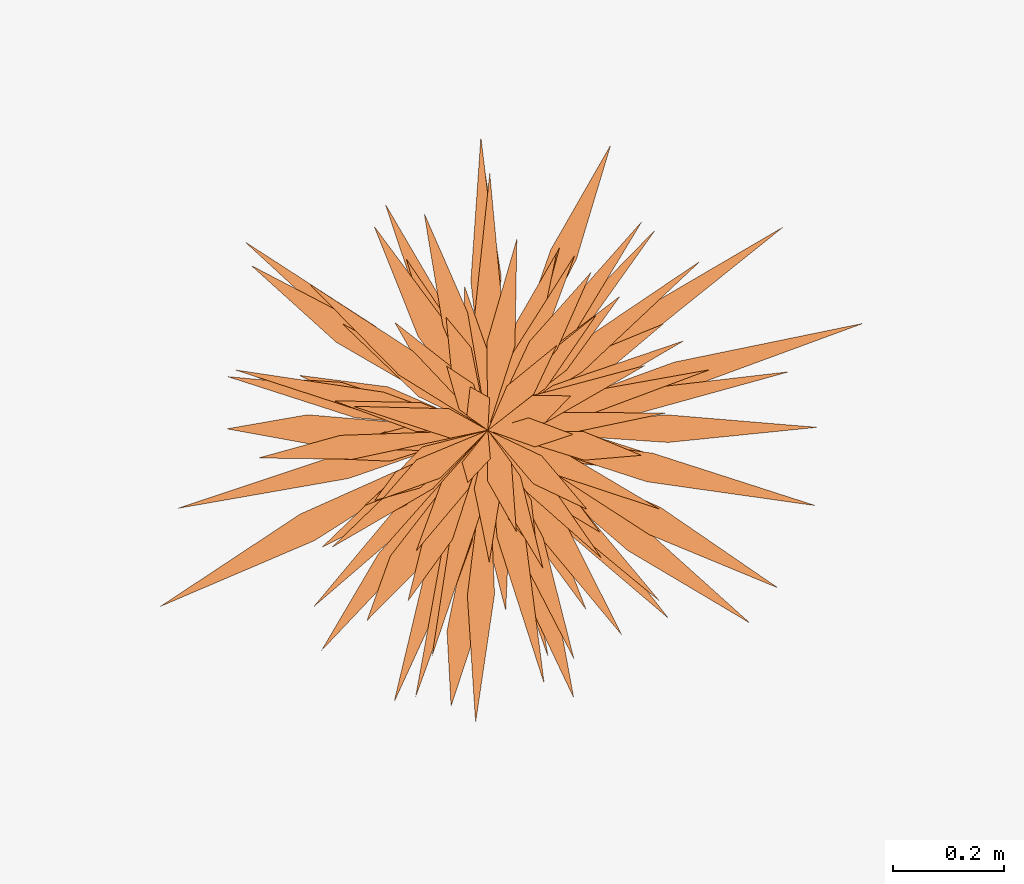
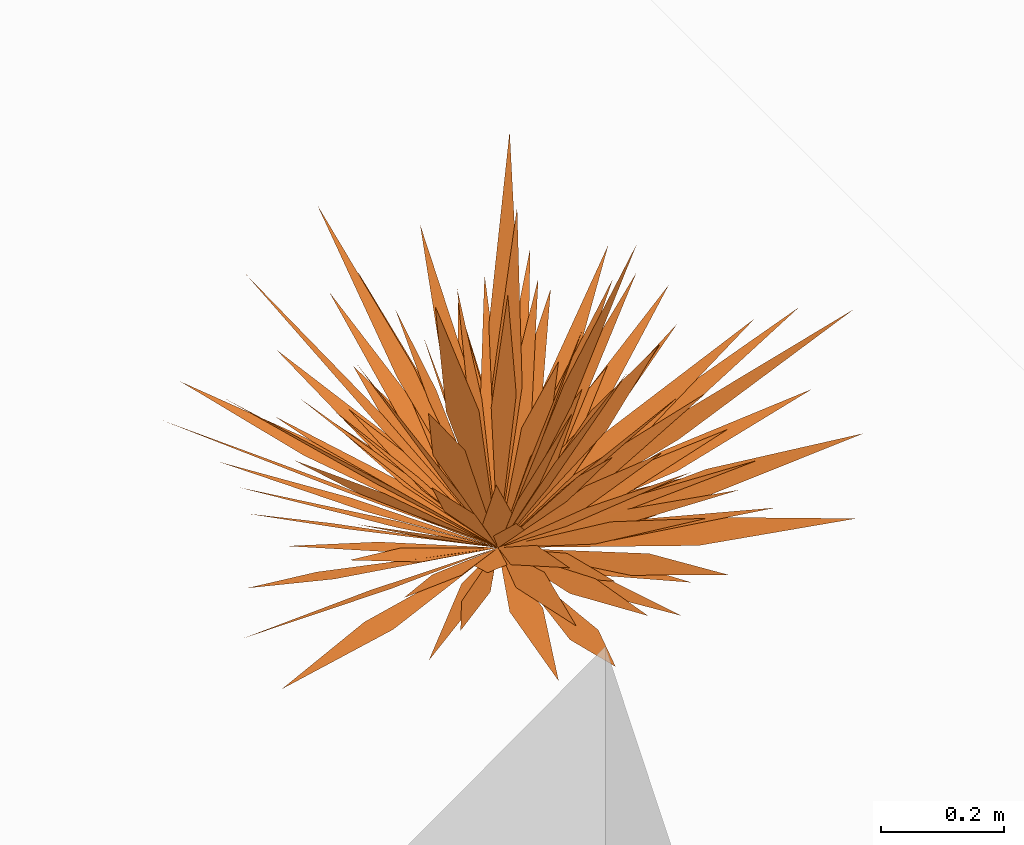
# One storey, part 5 of 7: 1 proxy.
"""IFC2X3 building model written with IfcOpenShell, lengths in metres."""

from ifc_helpers import new_model, entity, si_unit, converted_unit, derived_unit, money_unit, direction, frame, origin_with_axes, place, context, subcontext, project, spatial, open_shell, surface_model, type_object, element, save


model = new_model("IFC2X3")

# Units and contexts
model_context = context("Model", 3, precision=1e-05, world=origin_with_axes(), true_north=direction((0.0, 1.0)))
body_context = subcontext(model_context, "Body", "Model", "MODEL_VIEW")
ifc_project = project(units=[si_unit("LENGTHUNIT", "METRE"), si_unit("AREAUNIT", "SQUARE_METRE"), si_unit("VOLUMEUNIT", "CUBIC_METRE"), converted_unit("PLANEANGLEUNIT", "DEGREE", entity("IfcPlaneAngleMeasure", 0.0174532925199), si_unit("PLANEANGLEUNIT", "RADIAN"), dimensions=[0, 0, 0, 0, 0, 0, 0]), si_unit("SOLIDANGLEUNIT", "STERADIAN"), money_unit("CHF"), converted_unit("TIMEUNIT", "Year", entity("IfcTimeMeasure", 31556926.0), si_unit("TIMEUNIT", "SECOND"), dimensions=[0, 0, 1, 0, 0, 0, 0]), si_unit("MASSUNIT", "GRAM", prefix="KILO"), si_unit("THERMODYNAMICTEMPERATUREUNIT", "DEGREE_CELSIUS"), si_unit("LUMINOUSINTENSITYUNIT", "LUMEN"), si_unit("ENERGYUNIT", "JOULE", prefix="MEGA"), derived_unit("THERMALCONDUCTANCEUNIT", [(si_unit("POWERUNIT", "WATT"), 1), (si_unit("LENGTHUNIT", "METRE"), -1), (si_unit("THERMODYNAMICTEMPERATUREUNIT", "KELVIN"), -1)]), derived_unit("SPECIFICHEATCAPACITYUNIT", [(si_unit("ENERGYUNIT", "JOULE"), 1), (si_unit("MASSUNIT", "GRAM", prefix="KILO"), -1), (si_unit("THERMODYNAMICTEMPERATUREUNIT", "KELVIN"), -1)]), derived_unit("MASSDENSITYUNIT", [(si_unit("MASSUNIT", "GRAM", prefix="KILO"), 1), (si_unit("VOLUMEUNIT", "CUBIC_METRE"), -1)])], contexts=[model_context])

# Site, building, storey
site_placement = place(None, origin_with_axes())
site = spatial("IfcSite", under=ifc_project, at=site_placement, Name="Site", CompositionType="ELEMENT")
building_placement = place(site_placement, origin_with_axes())
building = spatial("IfcBuilding", under=site, at=building_placement, Name="Bâtiment", CompositionType="ELEMENT")
storey_placement = place(building_placement, frame((0.0, 0.0, 9.0), z_axis=(0.0, 0.0, 1.0), x_axis=(1.0, 0.0, 0.0)))
storey = spatial("IfcBuildingStorey", under=building, at=storey_placement, Name="TOITURE", CompositionType="ELEMENT", Elevation=9.0)

# Proxy
building_element_proxy_type = type_object("IfcBuildingElementProxyType", Name="Modèle herbe 24", PredefinedType="NOTDEFINED")
proxy_placement = place(storey_placement, frame((75.1954434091, 5.22679544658, -9.3), z_axis=(0.0, 0.0, 1.0), x_axis=(0.0, -1.0, 0.0)))
element("IfcBuildingElementProxy", 1, at=proxy_placement, inside=storey, type_object=building_element_proxy_type, Name="Symb-0005", context=body_context, shape_type="SurfaceModel", body=[
    surface_model("IfcShellBasedSurfaceModel", [(0.0, 0.0, 0.0), (0.12185989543, 0.0579657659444, 0.0326725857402), (0.407485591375, 0.10850597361, 0.0743544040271), (0.137616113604, 0.0111279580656, 0.0146743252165)], [open_shell([[[0, 1, 2, 3]]])]),
    surface_model("IfcShellBasedSurfaceModel", [(0.0, 0.0, 0.0), (0.134543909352, 0.104066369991, 0.033559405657), (0.322448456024, 0.176671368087, 0.0648312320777), (0.16130291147, 0.0580298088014, 0.0259233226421)], [open_shell([[[0, 1, 2, 3]]])]),
    surface_model("IfcShellBasedSurfaceModel", [(0.0, 0.0, 0.0), (0.173690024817, 0.278591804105, 0.0685603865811), (0.347062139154, 0.471724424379, 0.103264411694), (0.216474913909, 0.251717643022, 0.0475287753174)], [open_shell([[[0, 1, 2, 3]]])]),
    surface_model("IfcShellBasedSurfaceModel", [(0.0, 0.0, 0.0), (0.028347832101, 0.124526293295, 0.0265501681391), (0.10555995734, 0.237718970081, 0.0458630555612), (0.0739858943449, 0.105927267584, 0.0179111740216)], [open_shell([[[0, 1, 2, 3]]])]),
    surface_model("IfcShellBasedSurfaceModel", [(0.0, 0.0, 0.0), (0.0124808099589, 0.1790529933, 0.0423439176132), (0.0883215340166, 0.423543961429, 0.0762887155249), (0.0608903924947, 0.172796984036, 0.0210312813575)], [open_shell([[[0, 1, 2, 3]]])]),
    surface_model("IfcShellBasedSurfaceModel", [(0.0, 0.0, 0.0), (-0.0276763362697, 0.322234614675, 0.0617582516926), (-0.00522684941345, 0.592553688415, 0.104487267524), (0.0219729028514, 0.324348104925, 0.0522561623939)], [open_shell([[[0, 1, 2, 3]]])]),
    surface_model("IfcShellBasedSurfaceModel", [(0.0, 0.0, 0.0), (-0.122469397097, 0.335260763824, 0.0637342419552), (-0.192445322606, 0.676019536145, 0.123936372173), (-0.07255363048, 0.349813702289, 0.061862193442)], [open_shell([[[0, 1, 2, 3]]])]),
    surface_model("IfcShellBasedSurfaceModel", [(0.0, 0.0, 0.0), (-0.188058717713, 0.227848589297, 0.0530202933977), (-0.365858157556, 0.531883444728, 0.113830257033), (-0.145739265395, 0.257425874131, 0.0508350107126)], [open_shell([[[0, 1, 2, 3]]])]),
    surface_model("IfcShellBasedSurfaceModel", [(0.0, 0.0, 0.0), (-0.118832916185, 0.0501660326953, 0.0242755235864), (-0.253141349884, 0.176784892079, 0.0544429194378), (-0.0885873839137, 0.0946889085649, 0.0203342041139)], [open_shell([[[0, 1, 2, 3]]])]),
    surface_model("IfcShellBasedSurfaceModel", [(0.0, 0.0, 0.0), (-0.324659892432, 0.113115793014, 0.0698192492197), (-0.513330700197, 0.221121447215, 0.0985544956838), (-0.308170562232, 0.159481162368, 0.0516780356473)], [open_shell([[[0, 1, 2, 3]]])]),
    surface_model("IfcShellBasedSurfaceModel", [(0.0, 0.0, 0.0), (-0.275328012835, -0.029674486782, 0.0501443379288), (-0.462596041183, -0.00465935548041, 0.0815723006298), (-0.276398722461, 0.0241173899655, 0.0471449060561)], [open_shell([[[0, 1, 2, 3]]])]),
    surface_model("IfcShellBasedSurfaceModel", [(0.0, 0.0, 0.0), (-0.178272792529, -0.107972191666, 0.0427827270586), (-0.406994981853, -0.184595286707, 0.0788006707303), (-0.200632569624, -0.0638828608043, 0.0305793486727)], [open_shell([[[0, 1, 2, 3]]])]),
    surface_model("IfcShellBasedSurfaceModel", [(0.0, 0.0, 0.0), (-0.0819884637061, -0.139749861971, 0.0387453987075), (-0.267011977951, -0.334213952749, 0.075428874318), (-0.120433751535, -0.113618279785, 0.0184373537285)], [open_shell([[[0, 1, 2, 3]]])]),
    surface_model("IfcShellBasedSurfaceModel", [(0.0, 0.0, 0.0), (-0.0295900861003, -0.190817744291, 0.0409214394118), (-0.0988190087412, -0.339897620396, 0.0624146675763), (-0.0780116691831, -0.179288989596, 0.0270404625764)], [open_shell([[[0, 1, 2, 3]]])]),
    surface_model("IfcShellBasedSurfaceModel", [(0.0, 0.0, 0.0), (0.0243923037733, -0.321731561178, 0.0653195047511), (-0.00248455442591, -0.469878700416, 0.0828534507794), (-0.0278088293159, -0.324401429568, 0.0486127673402)], [open_shell([[[0, 1, 2, 3]]])]),
    surface_model("IfcShellBasedSurfaceModel", [(0.0, 0.0, 0.0), (0.0868323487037, -0.250547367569, 0.0592128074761), (0.140880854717, -0.559382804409, 0.101714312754), (0.0432548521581, -0.265978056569, 0.0347086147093)], [open_shell([[[0, 1, 2, 3]]])]),
    surface_model("IfcShellBasedSurfaceModel", [(0.0, 0.0, 0.0), (0.198595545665, -0.311796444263, 0.067317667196), (0.316981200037, -0.589043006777, 0.117947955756), (0.151188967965, -0.338204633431, 0.0628363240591)], [open_shell([[[0, 1, 2, 3]]])]),
    surface_model("IfcShellBasedSurfaceModel", [(0.0, 0.0, 0.0), (0.113426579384, -0.075974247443, 0.0306733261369), (0.317806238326, -0.313565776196, 0.0787225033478), (0.0792019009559, -0.11408400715, 0.017041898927)], [open_shell([[[0, 1, 2, 3]]])]),
    surface_model("IfcShellBasedSurfaceModel", [(0.0, 0.0, 0.0), (0.237392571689, -0.0527996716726, 0.0427023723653), (0.489176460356, -0.168694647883, 0.0912398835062), (0.219506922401, -0.104764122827, 0.0425172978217)], [open_shell([[[0, 1, 2, 3]]])]),
    surface_model("IfcShellBasedSurfaceModel", [(0.0, 0.0, 0.0), (0.366775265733, -0.0235358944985, 0.0674361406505), (0.496804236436, -0.0661959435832, 0.0883741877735), (0.36108494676, -0.0734467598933, 0.0620395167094)], [open_shell([[[0, 1, 2, 3]]])]),
    surface_model("IfcShellBasedSurfaceModel", [(0.0, 0.0, 0.0), (0.156100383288, 0.0396108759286, 0.0697354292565), (0.324321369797, 0.0321535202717, 0.118622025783), (0.168370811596, -0.00744250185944, 0.0489413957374)], [open_shell([[[0, 1, 2, 3]]])]),
    surface_model("IfcShellBasedSurfaceModel", [(0.0, 0.0, 0.0), (0.285963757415, 0.118505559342, 0.120406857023), (0.481461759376, 0.154546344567, 0.184044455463), (0.306482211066, 0.0716660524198, 0.106062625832)], [open_shell([[[0, 1, 2, 3]]])]),
    surface_model("IfcShellBasedSurfaceModel", [(0.0, 0.0, 0.0), (0.12831213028, 0.160351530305, 0.0753783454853), (0.338693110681, 0.325331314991, 0.170931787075), (0.165970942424, 0.122321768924, 0.0731405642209)], [open_shell([[[0, 1, 2, 3]]])]),
    surface_model("IfcShellBasedSurfaceModel", [(0.0, 0.0, 0.0), (0.139034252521, 0.311151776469, 0.131670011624), (0.28379154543, 0.522149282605, 0.216302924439), (0.187929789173, 0.29043076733, 0.117538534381)], [open_shell([[[0, 1, 2, 3]]])]),
    surface_model("IfcShellBasedSurfaceModel", [(0.0, 0.0, 0.0), (0.00682968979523, 0.180017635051, 0.0704288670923), (0.0737796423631, 0.38790636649, 0.143717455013), (0.0604072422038, 0.173489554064, 0.0605438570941)], [open_shell([[[0, 1, 2, 3]]])]),
    surface_model("IfcShellBasedSurfaceModel", [(0.0, 0.0, 0.0), (-0.067097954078, 0.214508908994, 0.0929168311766), (-0.105299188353, 0.542573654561, 0.201165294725), (-0.0194347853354, 0.23136712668, 0.0723967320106)], [open_shell([[[0, 1, 2, 3]]])]),
    surface_model("IfcShellBasedSurfaceModel", [(0.0, 0.0, 0.0), (-0.12460753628, 0.153653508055, 0.0726259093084), (-0.191053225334, 0.315412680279, 0.134218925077), (-0.0788965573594, 0.182314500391, 0.0703400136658)], [open_shell([[[0, 1, 2, 3]]])]),
    surface_model("IfcShellBasedSurfaceModel", [(0.0, 0.0, 0.0), (-0.116500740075, 0.0626906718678, 0.0476662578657), (-0.360899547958, 0.301727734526, 0.171216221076), (-0.0825872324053, 0.103755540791, 0.0467840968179)], [open_shell([[[0, 1, 2, 3]]])]),
    surface_model("IfcShellBasedSurfaceModel", [(0.0, 0.0, 0.0), (-0.140470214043, 0.0304294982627, 0.063668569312), (-0.328736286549, 0.129118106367, 0.128548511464), (-0.130829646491, 0.076129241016, 0.04242009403)], [open_shell([[[0, 1, 2, 3]]])]),
    surface_model("IfcShellBasedSurfaceModel", [(0.0, 0.0, 0.0), (-0.267895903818, -0.0305474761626, 0.105507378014), (-0.527599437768, -0.0124888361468, 0.192084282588), (-0.274031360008, 0.0177194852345, 0.0917932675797)], [open_shell([[[0, 1, 2, 3]]])]),
    surface_model("IfcShellBasedSurfaceModel", [(0.0, 0.0, 0.0), (-0.140036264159, -0.0954135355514, 0.0707309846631), (-0.3080259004, -0.146732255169, 0.124182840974), (-0.168002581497, -0.0513248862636, 0.0534570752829)], [open_shell([[[0, 1, 2, 3]]])]),
    surface_model("IfcShellBasedSurfaceModel", [(0.0, 0.0, 0.0), (-0.143719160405, -0.224274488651, 0.110532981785), (-0.339425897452, -0.437727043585, 0.2016062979), (-0.186928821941, -0.202132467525, 0.0858595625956)], [open_shell([[[0, 1, 2, 3]]])]),
    surface_model("IfcShellBasedSurfaceModel", [(0.0, 0.0, 0.0), (-0.0357421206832, -0.266855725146, 0.10935861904), (-0.0958149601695, -0.416480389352, 0.155546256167), (-0.0861628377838, -0.263030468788, 0.0885422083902)], [open_shell([[[0, 1, 2, 3]]])]),
    surface_model("IfcShellBasedSurfaceModel", [(0.0, 0.0, 0.0), (0.0557056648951, -0.176346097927, 0.0672075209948), (0.0501172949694, -0.308386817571, 0.11371619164), (0.00306582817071, -0.185292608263, 0.0661450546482)], [open_shell([[[0, 1, 2, 3]]])]),
    surface_model("IfcShellBasedSurfaceModel", [(0.0, 0.0, 0.0), (0.134102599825, -0.146641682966, 0.078002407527), (0.210680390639, -0.298505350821, 0.132982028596), (0.0955618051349, -0.178761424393, 0.0669623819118)], [open_shell([[[0, 1, 2, 3]]])]),
    surface_model("IfcShellBasedSurfaceModel", [(0.0, 0.0, 0.0), (0.244840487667, -0.155742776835, 0.1155946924), (0.396450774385, -0.299293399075, 0.180798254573), (0.222151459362, -0.196804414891, 0.0973733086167)], [open_shell([[[0, 1, 2, 3]]])]),
    surface_model("IfcShellBasedSurfaceModel", [(0.0, 0.0, 0.0), (0.200372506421, -0.0284888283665, 0.0826302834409), (0.479873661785, -0.130021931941, 0.180957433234), (0.193257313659, -0.0781653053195, 0.0658051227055)], [open_shell([[[0, 1, 2, 3]]])]),
    surface_model("IfcShellBasedSurfaceModel", [(0.0, 0.0, 0.0), (0.295382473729, 0.0120080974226, 0.113697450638), (0.52613927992, -0.0220257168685, 0.191666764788), (0.297496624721, -0.0368277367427, 0.102281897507)], [open_shell([[[0, 1, 2, 3]]])]),
    surface_model("IfcShellBasedSurfaceModel", [(0.0, 0.0, 0.0), (0.193942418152, 0.0996702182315, 0.134184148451), (0.411092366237, 0.154831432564, 0.253620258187), (0.218893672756, 0.0558179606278, 0.120511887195)], [open_shell([[[0, 1, 2, 3]]])]),
    surface_model("IfcShellBasedSurfaceModel", [(0.0, 0.0, 0.0), (0.170631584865, 0.141606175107, 0.130060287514), (0.367641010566, 0.24046081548, 0.253627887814), (0.200194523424, 0.100937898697, 0.125764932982)], [open_shell([[[0, 1, 2, 3]]])]),
    surface_model("IfcShellBasedSurfaceModel", [(0.0, 0.0, 0.0), (0.0847831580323, 0.123022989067, 0.0852718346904), (0.30720849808, 0.308880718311, 0.251518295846), (0.122801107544, 0.08569121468, 0.0846819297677)], [open_shell([[[0, 1, 2, 3]]])]),
    surface_model("IfcShellBasedSurfaceModel", [(0.0, 0.0, 0.0), (0.0414614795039, 0.297018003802, 0.174029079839), (0.13573424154, 0.58983279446, 0.349440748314), (0.0928354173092, 0.286568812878, 0.171711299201)], [open_shell([[[0, 1, 2, 3]]])]),
    surface_model("IfcShellBasedSurfaceModel", [(0.0, 0.0, 0.0), (-0.0585973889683, 0.117735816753, 0.0796757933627), (-0.108899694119, 0.399369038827, 0.23899426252), (-0.0104615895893, 0.135524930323, 0.0718829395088)], [open_shell([[[0, 1, 2, 3]]])]),
    surface_model("IfcShellBasedSurfaceModel", [(0.0, 0.0, 0.0), (-0.136843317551, 0.133808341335, 0.119739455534), (-0.304580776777, 0.382750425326, 0.282410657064), (-0.105105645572, 0.1702360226, 0.104598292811)], [open_shell([[[0, 1, 2, 3]]])]),
    surface_model("IfcShellBasedSurfaceModel", [(0.0, 0.0, 0.0), (-0.181854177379, 0.105705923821, 0.132329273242), (-0.375612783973, 0.277209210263, 0.269524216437), (-0.162705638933, 0.148585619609, 0.114912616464)], [open_shell([[[0, 1, 2, 3]]])]),
    surface_model("IfcShellBasedSurfaceModel", [(0.0, 0.0, 0.0), (-0.180512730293, 0.0436742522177, 0.119459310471), (-0.319028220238, 0.123726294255, 0.197557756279), (-0.17339562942, 0.0935793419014, 0.0996979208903)], [open_shell([[[0, 1, 2, 3]]])]),
    surface_model("IfcShellBasedSurfaceModel", [(0.0, 0.0, 0.0), (-0.200498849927, -0.0244556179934, 0.122114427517), (-0.46181486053, 0.00345658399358, 0.266636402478), (-0.205709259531, 0.0274959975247, 0.112416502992)], [open_shell([[[0, 1, 2, 3]]])]),
    surface_model("IfcShellBasedSurfaceModel", [(0.0, 0.0, 0.0), (-0.168954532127, -0.12558960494, 0.122382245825), (-0.366857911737, -0.204561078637, 0.242507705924), (-0.197066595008, -0.078504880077, 0.119572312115)], [open_shell([[[0, 1, 2, 3]]])]),
    surface_model("IfcShellBasedSurfaceModel", [(0.0, 0.0, 0.0), (-0.158332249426, -0.272895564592, 0.182546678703), (-0.296349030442, -0.425705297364, 0.299470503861), (-0.201456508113, -0.24394088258, 0.181031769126)], [open_shell([[[0, 1, 2, 3]]])]),
    surface_model("IfcShellBasedSurfaceModel", [(0.0, 0.0, 0.0), (-0.0225663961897, -0.23914845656, 0.142895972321), (-0.0964929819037, -0.468485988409, 0.276158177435), (-0.0746543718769, -0.232871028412, 0.135345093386)], [open_shell([[[0, 1, 2, 3]]])]),
    surface_model("IfcShellBasedSurfaceModel", [(0.0, 0.0, 0.0), (0.03649435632, -0.122415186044, 0.0864933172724), (0.0312929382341, -0.284991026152, 0.165528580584), (-0.00774431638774, -0.139417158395, 0.0655842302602)], [open_shell([[[0, 1, 2, 3]]])]),
    surface_model("IfcShellBasedSurfaceModel", [(0.0, 0.0, 0.0), (0.105143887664, -0.0988279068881, 0.0929482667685), (0.210684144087, -0.280457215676, 0.202520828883), (0.0712874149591, -0.136032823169, 0.0766469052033)], [open_shell([[[0, 1, 2, 3]]])]),
    surface_model("IfcShellBasedSurfaceModel", [(0.0, 0.0, 0.0), (0.253824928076, -0.129433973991, 0.165467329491), (0.342458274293, -0.21742875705, 0.234202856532), (0.2263574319, -0.175436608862, 0.162923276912)], [open_shell([[[0, 1, 2, 3]]])]),
    surface_model("IfcShellBasedSurfaceModel", [(0.0, 0.0, 0.0), (0.145081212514, -0.0115547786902, 0.0970920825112), (0.40602548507, -0.100332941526, 0.241470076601), (0.145681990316, -0.0602957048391, 0.0758296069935)], [open_shell([[[0, 1, 2, 3]]])]),
    surface_model("IfcShellBasedSurfaceModel", [(0.0, 0.0, 0.0), (0.174548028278, 0.0651521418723, 0.162385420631), (0.455696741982, 0.101391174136, 0.391725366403), (0.192958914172, 0.0166170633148, 0.15353035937)], [open_shell([[[0, 1, 2, 3]]])]),
    surface_model("IfcShellBasedSurfaceModel", [(0.0, 0.0, 0.0), (0.0755646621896, 0.120238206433, 0.126118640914), (0.183365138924, 0.201498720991, 0.228605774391), (0.118448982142, 0.0929620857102, 0.115762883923)], [open_shell([[[0, 1, 2, 3]]])]),
    surface_model("IfcShellBasedSurfaceModel", [(0.0, 0.0, 0.0), (0.0321978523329, 0.123652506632, 0.120826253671), (0.141651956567, 0.308276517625, 0.284675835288), (0.0791309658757, 0.118631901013, 0.102909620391)], [open_shell([[[0, 1, 2, 3]]])]),
    surface_model("IfcShellBasedSurfaceModel", [(0.0, 0.0, 0.0), (-0.0323205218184, 0.0983314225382, 0.0997117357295), (-0.0309880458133, 0.321143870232, 0.27072330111), (0.0115059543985, 0.117379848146, 0.0821322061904)], [open_shell([[[0, 1, 2, 3]]])]),
    surface_model("IfcShellBasedSurfaceModel", [(0.0, 0.0, 0.0), (-0.0807169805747, 0.117499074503, 0.12396954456), (-0.160881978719, 0.352548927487, 0.325170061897), (-0.0383794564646, 0.143483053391, 0.116744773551)], [open_shell([[[0, 1, 2, 3]]])]),
    surface_model("IfcShellBasedSurfaceModel", [(0.0, 0.0, 0.0), (-0.134879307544, 0.0981253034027, 0.150433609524), (-0.241253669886, 0.238030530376, 0.284381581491), (-0.108371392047, 0.141875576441, 0.136302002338)], [open_shell([[[0, 1, 2, 3]]])]),
    surface_model("IfcShellBasedSurfaceModel", [(0.0, 0.0, 0.0), (-0.1090299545, 0.0260012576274, 0.101328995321), (-0.315011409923, 0.156453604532, 0.295131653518), (-0.0951445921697, 0.0754040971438, 0.0899604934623)], [open_shell([[[0, 1, 2, 3]]])]),
    surface_model("IfcShellBasedSurfaceModel", [(0.0, 0.0, 0.0), (-0.108194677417, -0.0442821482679, 0.101603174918), (-0.258917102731, -0.0419624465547, 0.220092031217), (-0.122516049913, 0.00689108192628, 0.0945120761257)], [open_shell([[[0, 1, 2, 3]]])]),
    surface_model("IfcShellBasedSurfaceModel", [(0.0, 0.0, 0.0), (-0.0704156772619, -0.0968268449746, 0.0992865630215), (-0.194244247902, -0.16770857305, 0.215334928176), (-0.107154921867, -0.0564858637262, 0.0975643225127)], [open_shell([[[0, 1, 2, 3]]])]),
    surface_model("IfcShellBasedSurfaceModel", [(0.0, 0.0, 0.0), (-0.0602361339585, -0.124443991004, 0.124763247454), (-0.191860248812, -0.262075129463, 0.272537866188), (-0.106624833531, -0.103482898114, 0.112263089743)], [open_shell([[[0, 1, 2, 3]]])]),
    surface_model("IfcShellBasedSurfaceModel", [(0.0, 0.0, 0.0), (-0.0199878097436, -0.183022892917, 0.169384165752), (-0.108519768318, -0.454688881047, 0.392245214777), (-0.0685053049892, -0.187755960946, 0.15047461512)], [open_shell([[[0, 1, 2, 3]]])]),
    surface_model("IfcShellBasedSurfaceModel", [(0.0, 0.0, 0.0), (0.05235575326, -0.243677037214, 0.224798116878), (0.0499675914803, -0.412826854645, 0.348931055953), (0.00924886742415, -0.265293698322, 0.205396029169)], [open_shell([[[0, 1, 2, 3]]])]),
    surface_model("IfcShellBasedSurfaceModel", [(0.0, 0.0, 0.0), (0.0803360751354, -0.0799091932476, 0.092831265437), (0.135841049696, -0.222197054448, 0.218527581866), (0.0347381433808, -0.108319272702, 0.0922887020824)], [open_shell([[[0, 1, 2, 3]]])]),
    surface_model("IfcShellBasedSurfaceModel", [(0.0, 0.0, 0.0), (0.19636123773, -0.0635523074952, 0.176614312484), (0.307515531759, -0.143835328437, 0.284867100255), (0.178903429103, -0.111971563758, 0.171012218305)], [open_shell([[[0, 1, 2, 3]]])]),
    surface_model("IfcShellBasedSurfaceModel", [(0.0, 0.0, 0.0), (0.125696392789, 0.07800199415, 0.190671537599), (0.219384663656, 0.0886251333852, 0.281980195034), (0.160091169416, 0.0374480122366, 0.176657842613)], [open_shell([[[0, 1, 2, 3]]])]),
    surface_model("IfcShellBasedSurfaceModel", [(0.0, 0.0, 0.0), (0.0590760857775, 0.0860776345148, 0.121488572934), (0.22959437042, 0.204223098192, 0.366201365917), (0.0928960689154, 0.0491008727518, 0.120905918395)], [open_shell([[[0, 1, 2, 3]]])]),
    surface_model("IfcShellBasedSurfaceModel", [(0.0, 0.0, 0.0), (0.00270927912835, 0.173103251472, 0.21288928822), (0.0451673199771, 0.27633510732, 0.333693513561), (0.0539409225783, 0.173484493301, 0.205639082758)], [open_shell([[[0, 1, 2, 3]]])]),
    surface_model("IfcShellBasedSurfaceModel", [(0.0, 0.0, 0.0), (-0.0632862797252, 0.0838928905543, 0.123530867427), (-0.116370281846, 0.282642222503, 0.364272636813), (-0.0150152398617, 0.106287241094, 0.121575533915)], [open_shell([[[0, 1, 2, 3]]])]),
    surface_model("IfcShellBasedSurfaceModel", [(0.0, 0.0, 0.0), (-0.0962922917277, 0.0573607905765, 0.148232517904), (-0.207773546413, 0.195406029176, 0.339918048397), (-0.07592764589, 0.104607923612, 0.133519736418)], [open_shell([[[0, 1, 2, 3]]])]),
    surface_model("IfcShellBasedSurfaceModel", [(0.0, 0.0, 0.0), (-0.157546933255, -0.00184140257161, 0.187094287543), (-0.34367869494, 0.0521760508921, 0.414273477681), (-0.151648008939, 0.0487822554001, 0.185612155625)], [open_shell([[[0, 1, 2, 3]]])]),
    surface_model("IfcShellBasedSurfaceModel", [(0.0, 0.0, 0.0), (-0.187907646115, -0.0809698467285, 0.252261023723), (-0.390003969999, -0.114493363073, 0.484403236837), (-0.21150291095, -0.0362850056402, 0.243825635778)], [open_shell([[[0, 1, 2, 3]]])]),
    surface_model("IfcShellBasedSurfaceModel", [(0.0, 0.0, 0.0), (-0.0991893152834, -0.159786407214, 0.229372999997), (-0.264167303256, -0.321906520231, 0.496273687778), (-0.141843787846, -0.133929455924, 0.223439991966)], [open_shell([[[0, 1, 2, 3]]])]),
    surface_model("IfcShellBasedSurfaceModel", [(0.0, 0.0, 0.0), (0.00210966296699, -0.129537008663, 0.151919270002), (-0.0528996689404, -0.276952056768, 0.336025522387), (-0.0498438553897, -0.120371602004, 0.15129447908)], [open_shell([[[0, 1, 2, 3]]])]),
    surface_model("IfcShellBasedSurfaceModel", [(0.0, 0.0, 0.0), (0.0732913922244, -0.0856996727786, 0.140549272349), (0.0893080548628, -0.175981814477, 0.235188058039), (0.0303294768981, -0.118485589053, 0.132330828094)], [open_shell([[[0, 1, 2, 3]]])]),
    surface_model("IfcShellBasedSurfaceModel", [(0.0, 0.0, 0.0), (0.105616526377, -0.0347760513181, 0.144319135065), (0.217651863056, -0.129020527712, 0.301536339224), (0.0938315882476, -0.0834535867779, 0.131997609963)], [open_shell([[[0, 1, 2, 3]]])]),
    surface_model("IfcShellBasedSurfaceModel", [(0.0, 0.0, 0.0), (0.0830998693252, 0.0588310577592, 0.19850843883), (0.248781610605, 0.0993143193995, 0.463968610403), (0.122528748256, 0.0232564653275, 0.184981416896)], [open_shell([[[0, 1, 2, 3]]])]),
    surface_model("IfcShellBasedSurfaceModel", [(0.0, 0.0, 0.0), (-0.0223021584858, 0.0733116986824, 0.141275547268), (0.0075685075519, 0.153428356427, 0.266068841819), (0.0301069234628, 0.0849060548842, 0.133098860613)], [open_shell([[[0, 1, 2, 3]]])]),
    surface_model("IfcShellBasedSurfaceModel", [(0.0, 0.0, 0.0), (-0.0625735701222, 0.0802593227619, 0.171706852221), (-0.0618781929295, 0.149208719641, 0.2797793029), (-0.0131816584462, 0.102411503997, 0.170816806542)], [open_shell([[[0, 1, 2, 3]]])]),
    surface_model("IfcShellBasedSurfaceModel", [(0.0, 0.0, 0.0), (-0.159622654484, 0.0748097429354, 0.319422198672), (-0.284486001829, 0.185954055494, 0.588671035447), (-0.14497713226, 0.124291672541, 0.310869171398)], [open_shell([[[0, 1, 2, 3]]])]),
    surface_model("IfcShellBasedSurfaceModel", [(0.0, 0.0, 0.0), (-0.110836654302, -0.0659081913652, 0.246609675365), (-0.203472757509, -0.075170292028, 0.375706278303), (-0.148974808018, -0.0300756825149, 0.233124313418)], [open_shell([[[0, 1, 2, 3]]])]),
    surface_model("IfcShellBasedSurfaceModel", [(0.0, 0.0, 0.0), (0.0143248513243, -0.0677114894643, 0.123518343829), (-0.0430012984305, -0.242350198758, 0.426319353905), (-0.0386183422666, -0.0692037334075, 0.117329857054)], [open_shell([[[0, 1, 2, 3]]])]),
    surface_model("IfcShellBasedSurfaceModel", [(0.0, 0.0, 0.0), (0.103952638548, -0.122200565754, 0.299191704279), (0.12644012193, -0.203711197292, 0.415278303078), (0.0745220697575, -0.165345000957, 0.286988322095)], [open_shell([[[0, 1, 2, 3]]])]),
    surface_model("IfcShellBasedSurfaceModel", [(0.0, 0.0, 0.0), (0.0897480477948, 0.0266475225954, 0.172456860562), (0.237282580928, 0.0025858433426, 0.411009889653), (0.104608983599, -0.0245294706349, 0.164199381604)], [open_shell([[[0, 1, 2, 3]]])]),
    surface_model("IfcShellBasedSurfaceModel", [(0.0, 0.0, 0.0), (0.0462284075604, 0.0969070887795, 0.317448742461), (0.14257281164, 0.178747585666, 0.628191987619), (0.0962679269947, 0.0817446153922, 0.310406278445)], [open_shell([[[0, 1, 2, 3]]])]),
    surface_model("IfcShellBasedSurfaceModel", [(0.0, 0.0, 0.0), (-0.0797352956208, 0.0345537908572, 0.258873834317), (-0.152720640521, 0.123899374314, 0.540315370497), (-0.064693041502, 0.0826181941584, 0.25210392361)], [open_shell([[[0, 1, 2, 3]]])]),
    surface_model("IfcShellBasedSurfaceModel", [(0.0, 0.0, 0.0), (-0.0373394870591, -0.0516729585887, 0.200910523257), (-0.115319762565, -0.0741368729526, 0.376664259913), (-0.0829717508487, -0.0256728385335, 0.192057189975)], [open_shell([[[0, 1, 2, 3]]])]),
    surface_model("IfcShellBasedSurfaceModel", [(0.0, 0.0, 0.0), (0.0859897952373, -0.0854250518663, 0.353486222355), (0.123224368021, -0.189102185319, 0.620126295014), (0.0531962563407, -0.128172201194, 0.346967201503)], [open_shell([[[0, 1, 2, 3]]])]),
    surface_model("IfcShellBasedSurfaceModel", [(0.0, 0.0, 0.0), (0.0582466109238, 0.0424090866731, 0.217618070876), (0.182469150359, 0.0512491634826, 0.520728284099), (0.0916383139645, -0.000311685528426, 0.210121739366)], [open_shell([[[0, 1, 2, 3]]])]),
    surface_model("IfcShellBasedSurfaceModel", [(0.0, 0.0, 0.0), (-0.0265128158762, -0.0378143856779, 0.26082964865), (-0.0782334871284, -0.031857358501, 0.479059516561), (-0.0582767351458, 0.00328734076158, 0.25837565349)], [open_shell([[[0, 1, 2, 3]]])]),
    surface_model("IfcShellBasedSurfaceModel", [(0.0, 0.0, 0.0), (0.0513130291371, 0.00454168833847, 0.333637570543), (0.0940957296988, -0.0360405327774, 0.571448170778), (0.0578557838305, -0.046355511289, 0.329350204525)], [open_shell([[[0, 1, 2, 3]]])]),
])

save(model, "model.ifc")
